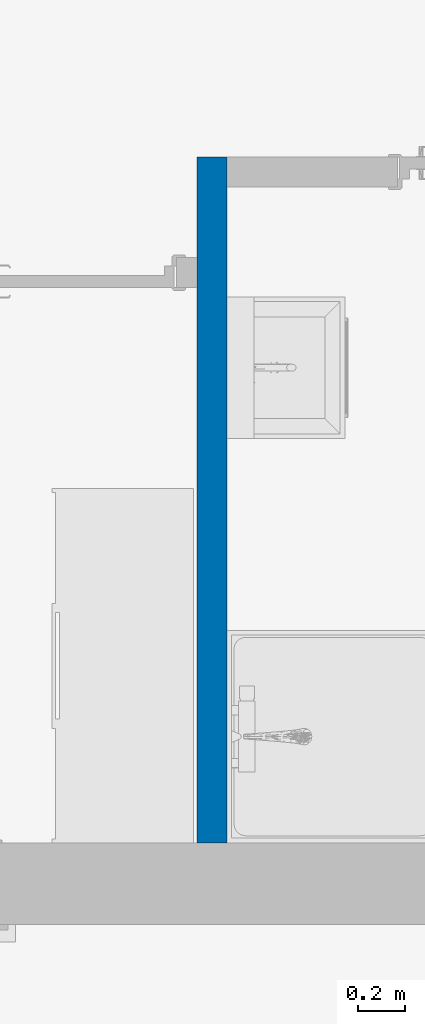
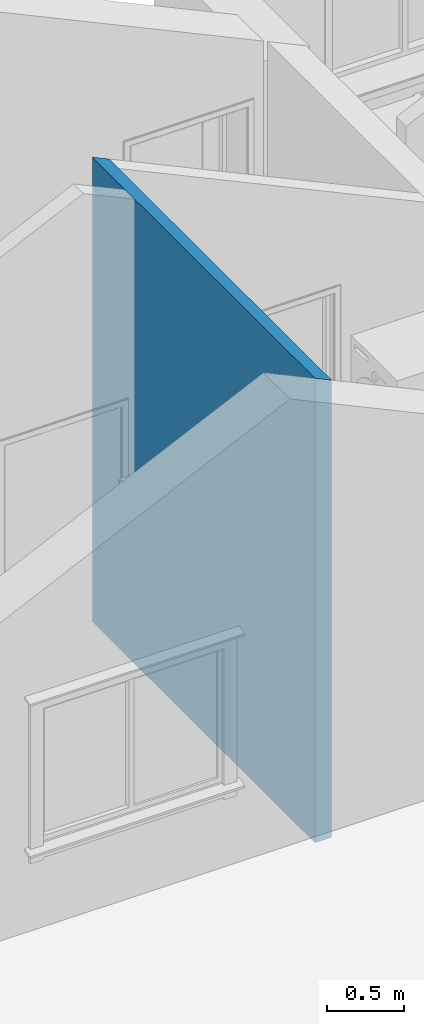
# One storey, part 12 of 44: 1 wall.
"""IFC2X3 building model written with IfcOpenShell, lengths in millimetres."""

from ifc_helpers import new_model, entity, si_unit, converted_unit, direction, frame, frame_2d, origin, place, context, subcontext, project, spatial, polyline, rectangle, extrude, clip, bounded_halfspace, material, layer, layer_set, layer_usage, type_object, element, save


model = new_model("IFC2X3")

# Units and contexts
model_context = context("Model", 3, precision=0.01, world=origin(), true_north=direction((0.0, 1.0)))
body_context = subcontext(model_context, "Body", "Model", "MODEL_VIEW")
ifc_project = project(units=[si_unit("LENGTHUNIT", "METRE", prefix="MILLI"), si_unit("AREAUNIT", "SQUARE_METRE"), si_unit("VOLUMEUNIT", "CUBIC_METRE"), converted_unit("PLANEANGLEUNIT", "DEGREE", entity("IfcPlaneAngleMeasure", 0.017453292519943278), si_unit("PLANEANGLEUNIT", "RADIAN"), dimensions=[0, 0, 0, 0, 0, 0, 0])], contexts=[model_context])

# Site, building, storey
site_placement = place(None, origin())
site = spatial("IfcSite", under=ifc_project, at=site_placement, Name="Default", CompositionType="ELEMENT")
building_placement = place(site_placement, origin())
building = spatial("IfcBuilding", under=site, at=building_placement, CompositionType="ELEMENT")
storey_placement = place(building_placement, frame((0.0, 0.0, 2681.0)))
storey = spatial("IfcBuildingStorey", under=building, at=storey_placement, Name="Et. 2", CompositionType="ELEMENT", Elevation=2681.0)

# Wall
ifc_material_1 = material(Name="Vegg - Gips - Innvendig - Hvit")
ifc_layer_1 = layer(ifc_material_1, 13.000000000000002)
ifc_material_2 = material(Name="Vegg - Stender - Stål - Isolert")
ifc_layer_2 = layer(ifc_material_2, 100.0)
ifc_layer_3 = layer(ifc_material_1, 13.000000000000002)
ifc_layer_set = layer_set([ifc_layer_1, ifc_layer_2, ifc_layer_3], Name="Basic Wall:24-GSIG-13_100_13")
ifc_layer_usage = layer_usage(ifc_layer_set, "AXIS2", "NEGATIVE", 63.00000000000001)
wall_type = type_object("IfcWallType", Name="Basic Wall:24-GSIG-13_100_13", PredefinedType="STANDARD", material=ifc_layer_set)
wall_placement = place(storey_placement, frame((25628.009586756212, 12658.058719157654, 0.0), z_axis=(0.0, 0.0, 1.0), x_axis=(0.0, -1.0, 0.0)))
element("IfcWallStandardCase", 1, at=wall_placement, inside=storey, type_object=wall_type, material=ifc_layer_usage, Name="Basic Wall:24-GSIG-13_100_13", context=body_context, shape_type="Clipping", body=[
    clip(extrude(rectangle(XDim=2903.8777614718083, YDim=125.99999999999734, at=frame_2d((1451.9388807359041, 4.405364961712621e-13), x_axis=(-1.0, 0.0))), origin(), (0.0, 0.0, 1.0), 3699.133135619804), bounded_halfspace(frame((0.0, -63.0, 3699.133135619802), z_axis=(0.0, 0.42261826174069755, 0.9063077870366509), x_axis=(-1.0, 0.0, 0.0)), False, frame((0.0, -63.0, 3699.133135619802)), polyline([(0.0, 0.0), (426.0, 0.0), (552.0, 0.0), (2903.8777614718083, 0.0), (2903.8777614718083, 126.0), (126.0, 126.0), (0.0, 126.0), (0.0, 0.0)]))),
])

save(model, "model.ifc")
